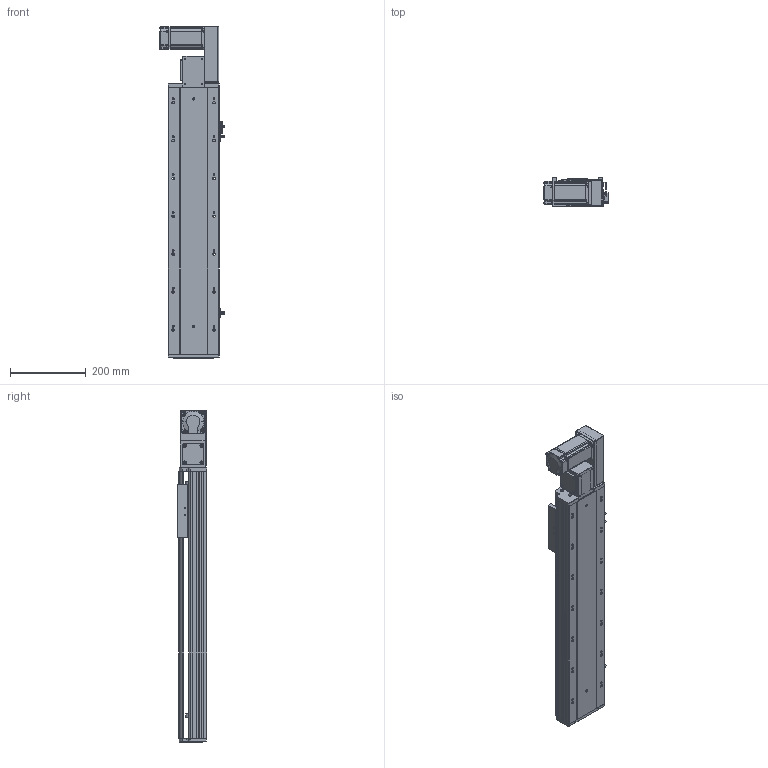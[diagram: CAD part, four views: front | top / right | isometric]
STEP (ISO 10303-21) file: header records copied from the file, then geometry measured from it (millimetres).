
FILE_DESCRIPTION (( 'STEP AP203' ), '1' );
FILE_NAME ('RY140-T-300-RK.SLDASM_450.step', '2021-03-01T06:45:02', ( '盈信电脑' ), ( '东莞市道滘镇水果街19号' ), 'SwSTEP 2.0', 'SolidWorks 2012', '' );
FILE_SCHEMA (( 'CONFIG_CONTROL_DESIGN' ));
Products named in the file (17): RY140-T-300-RK.SLDASM_450; 15; RY120-T主同步轮轴承压盖; RY140-T萇儂欶; RY140-T萇儂假蚾啣; RY120-T蹟翐M4; RY120-T肮祭湍揤踡輸1; RY140-T翋肮謫裔啣; RY140-T翋肮祭謫盓傅釱; 滅袉蝶18-10; 覜茼ん672; RY120-T肮祭湍揤踡輸2; RY140綴裔啣; RY120外置感应片(140共用）; RY140-T-300-DR倰第菁釱_450; RY140-T-300-DR倰第奻裔啣_450; RY140肮祭謫臏賑輸
Assembly tree (22 placements, depth 2):
  RY140-T-300-RK.SLDASM_450
    RY140-T-300-DR倰第菁釱_450
    RY140肮祭謫臏賑輸
    RY140-T-300-DR倰第奻裔啣_450
    RY140綴裔啣
    覜茼ん672  x3
    RY120外置感应片(140共用）
    RY120-T肮祭湍揤踡輸2
    RY120-T肮祭湍揤踡輸1
    RY140-T翋肮祭謫盓傅釱
    滅袉蝶18-10  x2
    RY140-T翋肮謫裔啣
    RY140-T萇儂欶
    RY140-T萇儂假蚾啣
    RY120-T蹟翐M4  x4
    15
    RY120-T主同步轮轴承压盖
Bounding box: 170.7 x 78 x 876.5 mm (x, y, z)
Volume: 2678483.2 mm3; surface area: 987666 mm2
Topology: 22 solids, 22 shells, 2591 faces, 7097 edges, 4578 vertices
Faces by surface type: plane 1381, cylinder 928, cone 182, bspline 100
Entity records: 82078 total; most frequent: CARTESIAN_POINT 20169, ORIENTED_EDGE 12754, DIRECTION 12053, EDGE_CURVE 6377, VERTEX_POINT 4177, LINE 4121, VECTOR 4121, AXIS2_PLACEMENT_3D 3966
